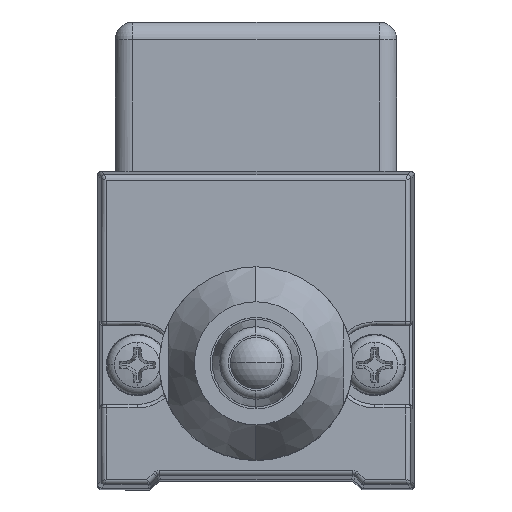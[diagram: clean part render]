
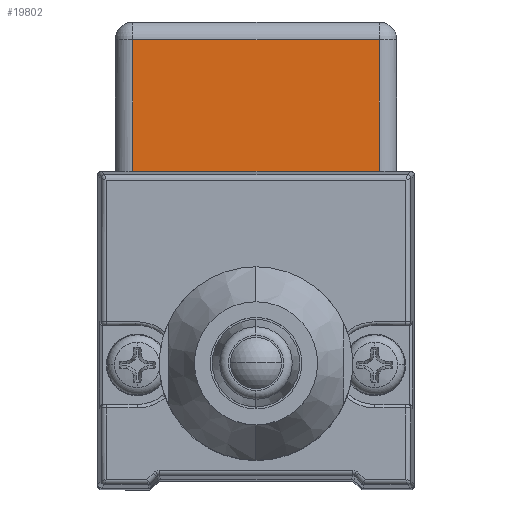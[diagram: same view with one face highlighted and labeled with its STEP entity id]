
A CAD part, top view. The second image highlights one B-rep face of the part: STEP entity #19802.
In plain terms, the highlighted planar face has unit normal (0, 0, 1).
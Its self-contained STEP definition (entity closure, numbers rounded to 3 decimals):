
#579 = CARTESIAN_POINT ( 'NONE',  ( 7., 25.5, -4. ) ) ;
#3009 = ORIENTED_EDGE ( 'NONE', *, *, #28223, .T. ) ;
#4656 = DIRECTION ( 'NONE',  ( 1., 0., 0. ) ) ;
#6023 = ORIENTED_EDGE ( 'NONE', *, *, #21253, .T. ) ;
#6436 = LINE ( 'NONE', #25041, #37367 ) ;
#6694 = DIRECTION ( 'NONE',  ( -1., 0., 0. ) ) ;
#7429 = PLANE ( 'NONE',  #37119 ) ;
#8108 = EDGE_CURVE ( 'NONE', #29649, #32835, #25345, .T. ) ;
#9602 = CARTESIAN_POINT ( 'NONE',  ( 8., 25.5, -4. ) ) ;
#9660 = CARTESIAN_POINT ( 'NONE',  ( -7., 18., -4. ) ) ;
#12692 = ORIENTED_EDGE ( 'NONE', *, *, #8108, .T. ) ;
#15062 = EDGE_CURVE ( 'NONE', #19603, #36823, #15365, .T. ) ;
#15365 = LINE ( 'NONE', #33635, #30791 ) ;
#16197 = CARTESIAN_POINT ( 'NONE',  ( 8., 26.5, -4. ) ) ;
#16236 = DIRECTION ( 'NONE',  ( 0., -1., 0. ) ) ;
#16318 = DIRECTION ( 'NONE',  ( 1., 0., 0. ) ) ;
#16609 = CARTESIAN_POINT ( 'NONE',  ( 7., 18., -4. ) ) ;
#17650 = VECTOR ( 'NONE', #33022, 1000. ) ;
#17705 = VECTOR ( 'NONE', #6694, 1000. ) ;
#18767 = CARTESIAN_POINT ( 'NONE',  ( 7., 26.5, -4. ) ) ;
#19603 = VERTEX_POINT ( 'NONE', #23901 ) ;
#19802 = ADVANCED_FACE ( 'NONE', ( #29201 ), #7429, .T. ) ;
#21253 = EDGE_CURVE ( 'NONE', #32835, #19603, #34083, .T. ) ;
#22001 = DIRECTION ( 'NONE',  ( 0., 0., 1. ) ) ;
#22392 = EDGE_LOOP ( 'NONE', ( #25116, #3009, #12692, #6023 ) ) ;
#23901 = CARTESIAN_POINT ( 'NONE',  ( -7., 25.5, -4. ) ) ;
#25041 = CARTESIAN_POINT ( 'NONE',  ( 8., 18., -4. ) ) ;
#25116 = ORIENTED_EDGE ( 'NONE', *, *, #15062, .T. ) ;
#25345 = LINE ( 'NONE', #18767, #17650 ) ;
#28223 = EDGE_CURVE ( 'NONE', #36823, #29649, #6436, .T. ) ;
#29201 = FACE_OUTER_BOUND ( 'NONE', #22392, .T. ) ;
#29649 = VERTEX_POINT ( 'NONE', #16609 ) ;
#30791 = VECTOR ( 'NONE', #16236, 1000. ) ;
#32835 = VERTEX_POINT ( 'NONE', #579 ) ;
#33022 = DIRECTION ( 'NONE',  ( 0., 1., 0. ) ) ;
#33635 = CARTESIAN_POINT ( 'NONE',  ( -7., 26.5, -4. ) ) ;
#34083 = LINE ( 'NONE', #9602, #17705 ) ;
#36823 = VERTEX_POINT ( 'NONE', #9660 ) ;
#37119 = AXIS2_PLACEMENT_3D ( 'NONE', #16197, #22001, #4656 ) ;
#37367 = VECTOR ( 'NONE', #16318, 1000. ) ;
